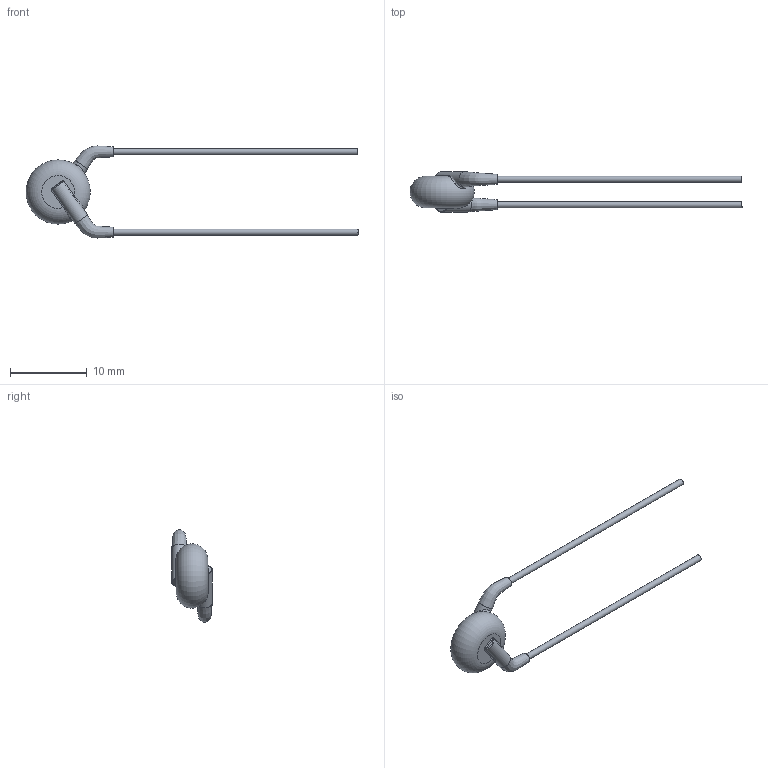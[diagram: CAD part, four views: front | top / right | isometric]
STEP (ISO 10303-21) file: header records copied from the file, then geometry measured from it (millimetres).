
FILE_DESCRIPTION(/* description */ (''),/* implementation_level */ '2;1');
FILE_NAME(/* name */ 'I:\Marketing\M6t1\3D-Models\Zchng-Werk-3\Upload for homepage\Ceramite\U2J\440LQ15-R\440LQ15-R.stp',/* time_stamp */ '2016-11-10T13:16:03+01:00',/* author */ ('sheinrich'),/* organization */ (''),/* preprocessor_version */ 'ST-DEVELOPER v16.1',/* originating_system */ 'Autodesk Inventor 2016',/* authorisation */ '');
FILE_SCHEMA (('AUTOMOTIVE_DESIGN { 1 0 10303 214 3 1 1 }'));
Length unit declared in the file: millimetre
Products named in the file (1): 440LQ15-R
Bounding box: 43.4 x 5.3 x 12.03 mm (x, y, z)
Volume: 253.9 mm3; surface area: 399.6 mm2
Topology: 1 solids, 1 shells, 37 faces, 80 edges, 43 vertices
Faces by surface type: bspline 12, cylinder 10, plane 8, torus 7
Full cylindrical faces by diameter (mm): 0.81 x2, 2 x2
Entity records: 1777 total; most frequent: CARTESIAN_POINT 1026, ORIENTED_EDGE 136, DIRECTION 128, EDGE_CURVE 68, AXIS2_PLACEMENT_3D 58, EDGE_LOOP 44, VERTEX_POINT 40, STYLED_ITEM 38
